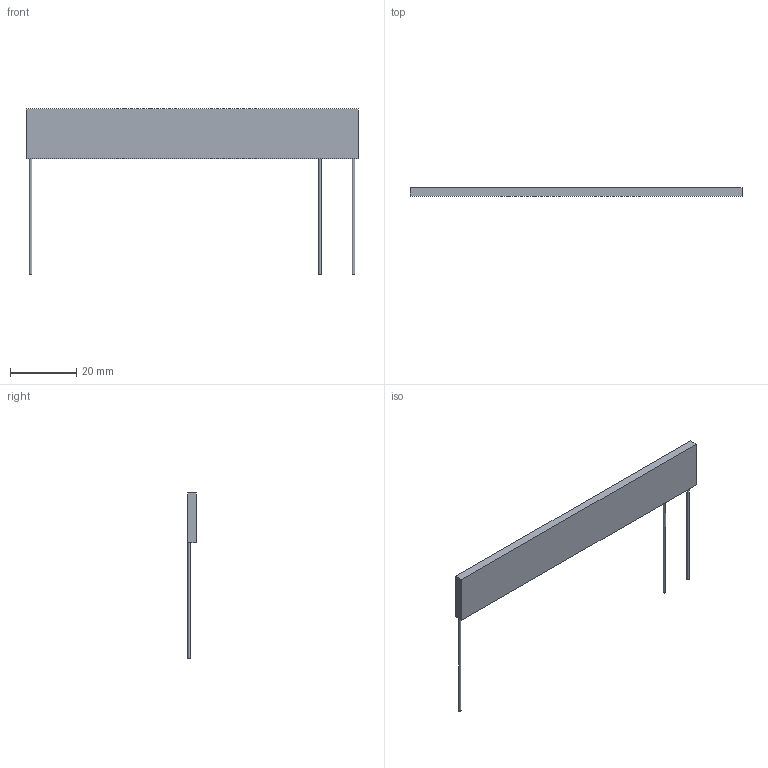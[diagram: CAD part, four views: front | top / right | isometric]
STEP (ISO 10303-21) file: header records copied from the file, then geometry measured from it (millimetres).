
FILE_DESCRIPTION(('STEP AP203'), '1');
FILE_NAME('NR1-77-2-7', '', ('UNSPECIFIED'), ('UNSPECIFIED'), 'ASCON STEP Converter 1.6', 'ASCON Math Kernel', '');
FILE_SCHEMA(('CONFIG_CONTROL_DESIGN'));
Length unit declared in the file: millimetre
Bounding box: 100 x 2.5 x 50 mm (x, y, z)
Volume: 3802.8 mm3; surface area: 3838.9 mm2
Topology: 1 solids, 1 shells, 12 faces, 27 edges, 17 vertices
Faces by surface type: plane 9, cylinder 3
Full cylindrical faces by diameter (mm): 0.8 x3
Entity records: 461 total; most frequent: DIRECTION 59, CARTESIAN_POINT 54, ORIENTED_EDGE 48, EDGE_CURVE 24, AXIS2_PLACEMENT_3D 22, VERTEX_POINT 17, EDGE_LOOP 15, LINE 15
